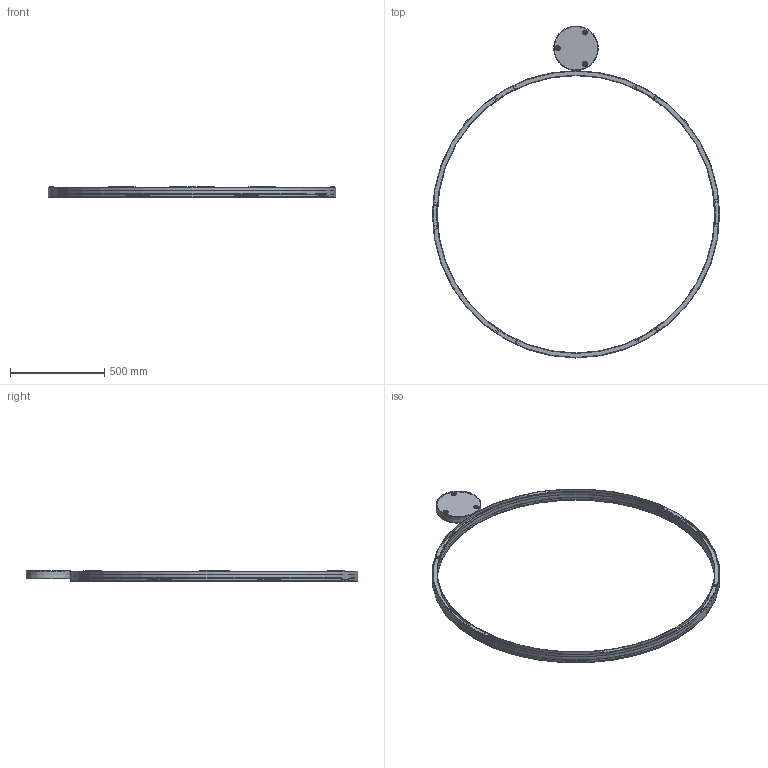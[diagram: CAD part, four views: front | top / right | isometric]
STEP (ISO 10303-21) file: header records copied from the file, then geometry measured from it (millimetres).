
FILE_DESCRIPTION(/* description */ (''),/* implementation_level */ '2;1');
FILE_NAME(/* name */ '750_Sharp_Plaf.stp',/* time_stamp */ '2019-02-18T09:56:06+01:00',/* author */ (''),/* organization */ (''),/* preprocessor_version */ 'ST-DEVELOPER v16',/* originating_system */ 'SIEMENS PLM Software NX 11.0',/* authorisation */ '');
FILE_SCHEMA (('AUTOMOTIVE_DESIGN { 1 0 10303 214 3 1 1 1 }'));
Length unit declared in the file: millimetre
Products named in the file (8): Smp_Cov_Rs; Smp_Fnd; Smp_Ceil; Smp_Bdy_R750; Smp_Cov_Sh_R750; Smp_Mod_Sh_R750; Smp_Ros; ASM_R750
Assembly tree (26 placements, depth 3):
  ASM_R750
    Smp_Mod_Sh_R750  x8
    Smp_Cov_Sh_R750  x8
    Smp_Bdy_R750
    Smp_Ceil  x6
    Smp_Ros
      Smp_Fnd
      Smp_Cov_Rs
Bounding box: 1527 x 1763.8 x 56.2 mm (x, y, z)
Volume: 2153646.9 mm3; surface area: 2010424.6 mm2
Topology: 25 solids, 90 shells, 4038 faces, 9747 edges, 5968 vertices
Faces by surface type: bspline 1312, torus 736, cylinder 721, plane 717, cone 552
Full cylindrical faces by diameter (mm): 231 x1, 1473 x1, 1475.8 x2, 1478 x3, 1522 x3, 1524.2 x2, 1527 x1
Entity records: 19183 total; most frequent: CARTESIAN_POINT 6669, ORIENTED_EDGE 2642, DIRECTION 2405, EDGE_CURVE 1321, AXIS2_PLACEMENT_3D 1010, VERTEX_POINT 840, EDGE_LOOP 685, ADVANCED_FACE 587
